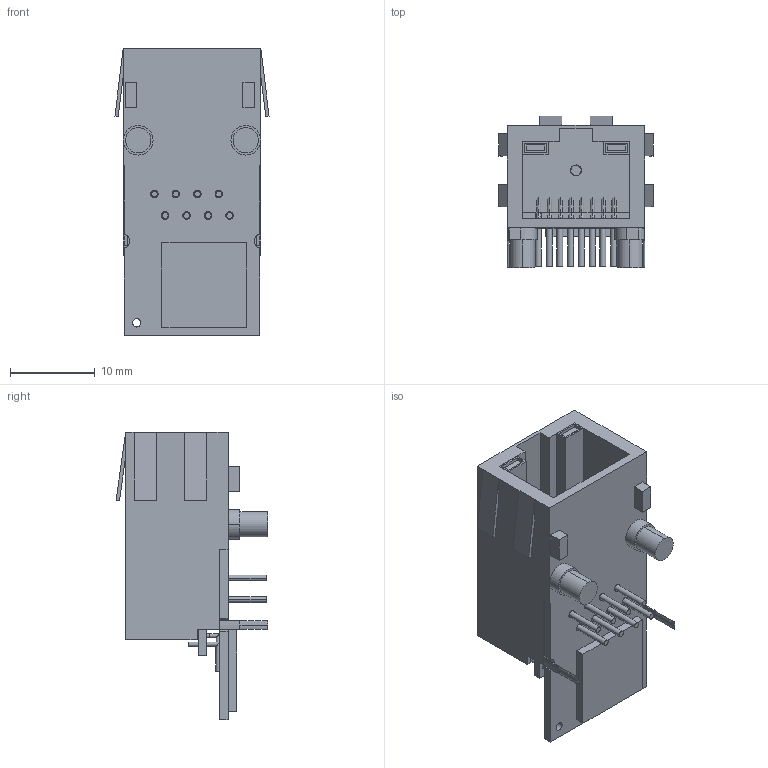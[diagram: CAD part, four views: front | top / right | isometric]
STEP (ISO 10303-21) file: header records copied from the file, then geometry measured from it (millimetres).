
FILE_DESCRIPTION((''),'2;1');
FILE_NAME('3D_MIINEPORT_E1','2014-02-05T',('Vincent_Huang'),(''),'PRO/ENGINEER BY PARAMETRIC TECHNOLOGY CORPORATION, 2004320','PRO/ENGINEER BY PARAMETRIC TECHNOLOGY CORPORATION, 2004320','');
FILE_SCHEMA(('CONFIG_CONTROL_DESIGN'));
Length unit declared in the file: millimetre
Products named in the file (1): 3D_MIINEPORT_E1
Bounding box: 18.21 x 17.92 x 33.9 mm (x, y, z)
Surface area: 5893.1 mm2 (no closed solid volume)
Topology: 0 solids, 34 shells, 721 faces, 1732 edges, 1114 vertices
Faces by surface type: plane 349, cylinder 254, torus 82, bspline 24, extrusion 8, sphere 4
Entity records: 22595 total; most frequent: CARTESIAN_POINT 5618, DIRECTION 3618, ORIENTED_EDGE 3464, EDGE_CURVE 1732, AXIS2_PLACEMENT_3D 1345, VERTEX_POINT 1114, VECTOR 928, LINE 920
